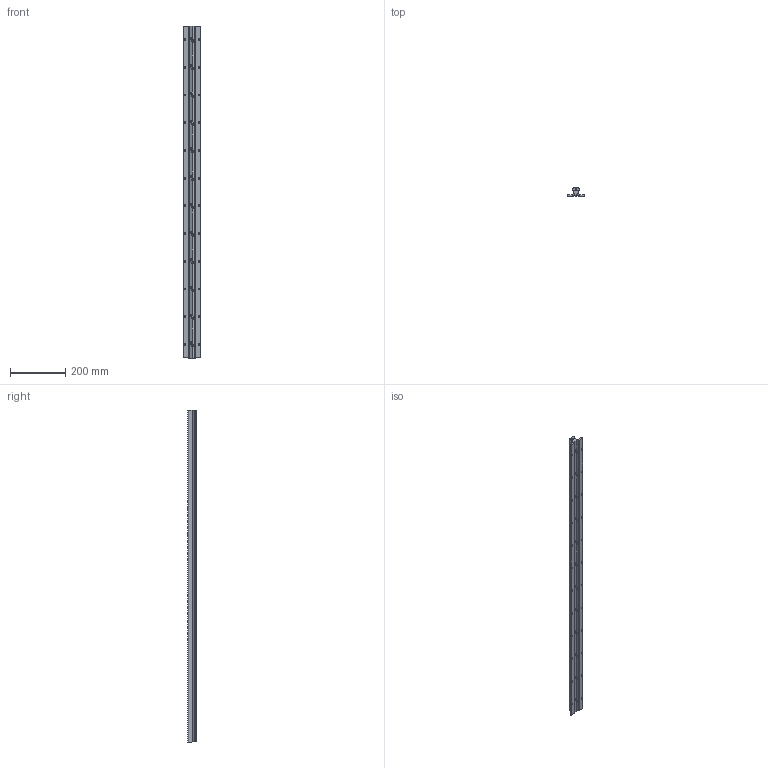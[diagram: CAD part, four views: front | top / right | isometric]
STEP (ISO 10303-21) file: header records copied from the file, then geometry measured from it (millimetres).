
FILE_DESCRIPTION (( 'STEP AP203' ), '1' );
FILE_NAME ('LF 2_-_LF 2 1198 mm lang.step', '2005-06-03T06:15:16', ( ' ' ), ( ' ' ), 'SwSTEP 2.0', 'SolidWorks 2004231', '' );
FILE_SCHEMA (( 'CONFIG_CONTROL_DESIGN' ));
Length unit declared in the file: millimetre
Products named in the file (1): LF 2_-_LF 2  1198 mm lang
Bounding box: 62 x 31 x 1198 mm (x, y, z)
Volume: 833413.6 mm3; surface area: 271048.6 mm2
Topology: 1 solids, 1 shells, 641 faces, 1678 edges, 1014 vertices
Faces by surface type: cylinder 322, plane 223, torus 48, cone 48
Entity records: 19829 total; most frequent: CARTESIAN_POINT 5206, ORIENTED_EDGE 3260, DIRECTION 2794, EDGE_CURVE 1630, VERTEX_POINT 1014, AXIS2_PLACEMENT_3D 1002, VECTOR 790, LINE 790
